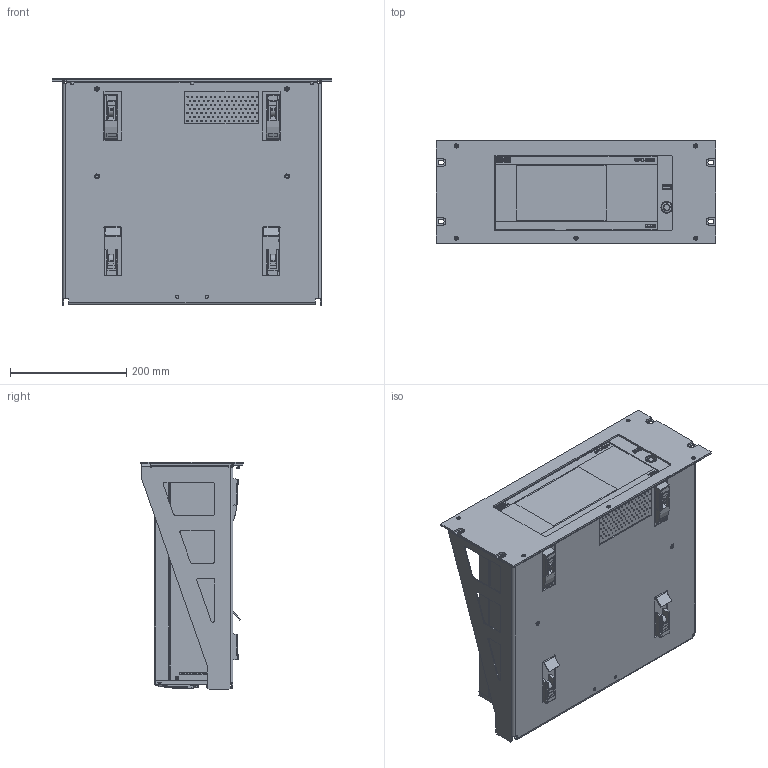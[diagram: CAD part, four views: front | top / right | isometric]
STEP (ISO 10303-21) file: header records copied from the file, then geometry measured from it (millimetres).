
FILE_DESCRIPTION (( 'STEP AP214' ), '1' );
FILE_NAME ('19000 CPC4000 RACKMOUNT VERSION.STEP', '2015-08-25T15:34:09', ( 'ZamoraH' ), ( 'Microsoft' ), 'SwSTEP 2.0', 'SolidWorks 2012', '' );
FILE_SCHEMA (( 'AUTOMOTIVE_DESIGN' ));
Length unit declared in the file: inch
Products named in the file (1): 19000 CPC4000 RACKMOUNT VERSION
Bounding box: 481.94 x 177.08 x 393.06 mm (x, y, z)
Surface area: 1409419.9 mm2 (no closed solid volume)
Topology: 0 solids, 209 shells, 1661 faces, 8848 edges, 7299 vertices
Faces by surface type: cylinder 771, plane 725, cone 82, torus 56, bspline 23, sphere 4
Entity records: 116644 total; most frequent: CARTESIAN_POINT 25303, DIRECTION 13958, ORIENTED_EDGE 12177, EDGE_CURVE 8848, VERTEX_POINT 7299, LINE 5452, VECTOR 5452, AXIS2_PLACEMENT_3D 4253
